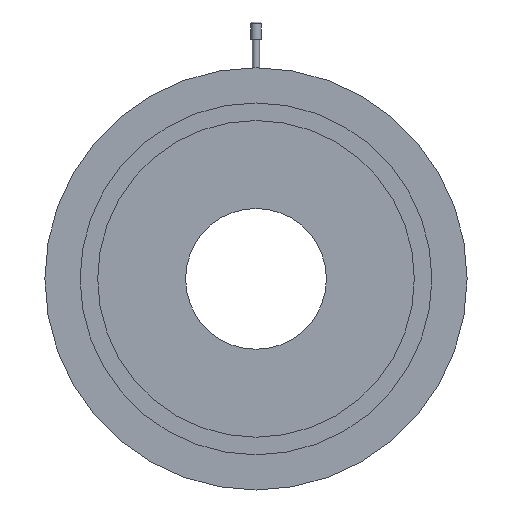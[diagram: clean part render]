
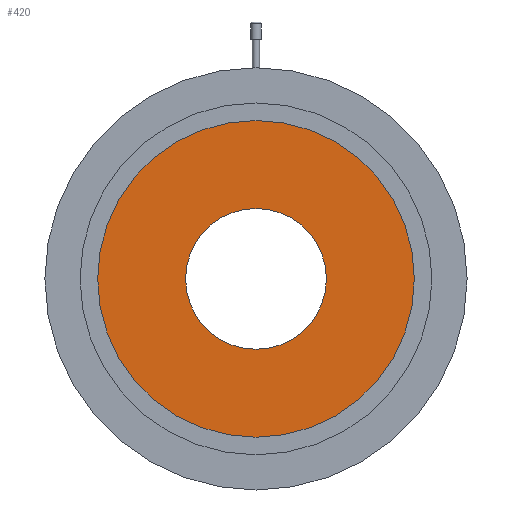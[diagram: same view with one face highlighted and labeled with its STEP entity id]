
A CAD part, front view. The second image highlights one B-rep face of the part: STEP entity #420.
In plain terms, the highlighted planar face has unit normal (0, -1, 0).
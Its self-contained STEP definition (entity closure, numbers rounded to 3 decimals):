
#420=ADVANCED_FACE('', (#430,#440), #450, .T.);
#860=AXIS2_PLACEMENT_3D('Ax2Pl3d', #870, #880, #890);
#1300=AXIS2_PLACEMENT_3D('Ax2Pl3d', #1310, #1320, #1330);
#1500=AXIS2_PLACEMENT_3D('Ax2Pl3d', #1510, #1520, #1530);
#870=CARTESIAN_POINT('HicPkt', (-2109.64,-785.577,
-137.886));
#2170=CARTESIAN_POINT('', (-2109.64,-785.577,-182.886)
);
#1310=CARTESIAN_POINT('HicPkt', (-2109.64,-785.577,
-137.886));
#2230=CARTESIAN_POINT('', (-2109.64,-785.577,-117.886)
);
#1510=CARTESIAN_POINT('HicPkt', (-2109.64,-785.577,
-182.886));
#2320=CIRCLE('Circle', #860, 45.);
#2380=CIRCLE('Circle', #1300, 20.);
#880=DIRECTION('Axis', (0.,-1.,0.))
;
#890=DIRECTION('RefDirection', (0.,
0.,-1.));
#1320=DIRECTION('Axis', (0.,-1.,0.)
);
#1330=DIRECTION('RefDirection', (0.,
0.,-1.));
#1520=DIRECTION('Axis', (0.,-1.,0.)
);
#1530=DIRECTION('RefDirection', (0.,
0.,-1.));
#3190=EDGE_CURVE('', #3200, #3200, #2320, .T.);
#3310=EDGE_CURVE('', #3320, #3320, #2380, .T.);
#3790=EDGE_LOOP('Edge_loop', (#3800));
#3810=EDGE_LOOP('Edge_loop', (#3820));
#440=FACE_BOUND('', #3810, .T.);
#430=FACE_OUTER_BOUND('Face_outer_bound', #3790, .T.);
#3800=ORIENTED_EDGE('', *, *, #3190, .T.);
#3820=ORIENTED_EDGE('', *, *, #3310, .F.);
#450=PLANE('Plane', #1500);
#3200=VERTEX_POINT('', #2170);
#3320=VERTEX_POINT('', #2230);
